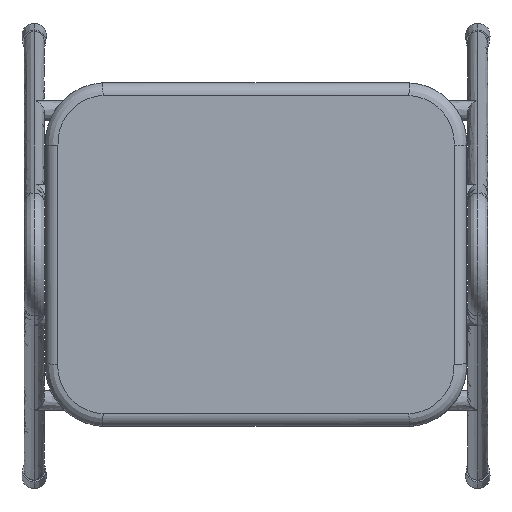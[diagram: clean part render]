
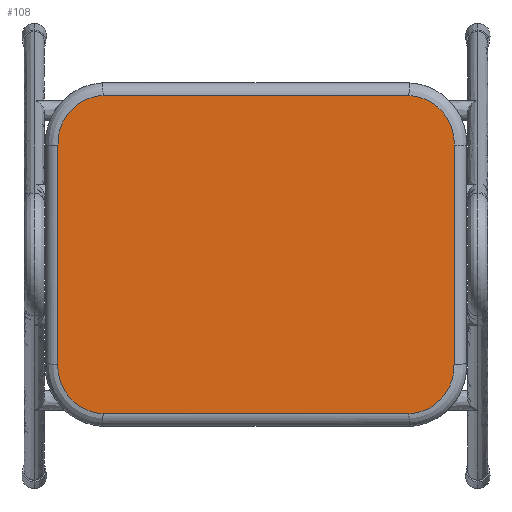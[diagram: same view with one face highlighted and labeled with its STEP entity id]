
A CAD part, top view. The second image highlights one B-rep face of the part: STEP entity #108.
In plain terms, the highlighted planar face has unit normal (0, 0, 1).
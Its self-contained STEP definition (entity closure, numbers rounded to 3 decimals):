
#108=ADVANCED_FACE('',(#216),#1754,.T.);
#216=FACE_OUTER_BOUND('',#332,.T.);
#332=EDGE_LOOP('',(#842,#843,#844,#845,#846,#847,#848,#849));
#842=ORIENTED_EDGE('',*,*,#1222,.F.);
#843=ORIENTED_EDGE('',*,*,#1219,.F.);
#844=ORIENTED_EDGE('',*,*,#1217,.F.);
#845=ORIENTED_EDGE('',*,*,#1214,.F.);
#846=ORIENTED_EDGE('',*,*,#1212,.F.);
#847=ORIENTED_EDGE('',*,*,#1209,.F.);
#848=ORIENTED_EDGE('',*,*,#1227,.F.);
#849=ORIENTED_EDGE('',*,*,#1224,.F.);
#1209=EDGE_CURVE('',#1716,#1717,#1427,.T.);
#1212=EDGE_CURVE('',#1717,#1713,#1428,.T.);
#1214=EDGE_CURVE('',#1713,#1714,#1430,.T.);
#1217=EDGE_CURVE('',#1714,#1715,#1431,.T.);
#1219=EDGE_CURVE('',#1715,#1712,#1433,.T.);
#1222=EDGE_CURVE('',#1712,#1710,#1434,.T.);
#1224=EDGE_CURVE('',#1710,#1711,#1436,.T.);
#1227=EDGE_CURVE('',#1711,#1716,#1437,.T.);
#1427=(
BOUNDED_CURVE()
B_SPLINE_CURVE(1,(#8528,#8529),.UNSPECIFIED.,.F.,.F.)
B_SPLINE_CURVE_WITH_KNOTS((2,2),(0.276,290.548),
 .UNSPECIFIED.)
CURVE()
GEOMETRIC_REPRESENTATION_ITEM()
RATIONAL_B_SPLINE_CURVE((1.,1.))
REPRESENTATION_ITEM('')
);
#1428=(
BOUNDED_CURVE()
B_SPLINE_CURVE(2,(#8566,#8567,#8568),.UNSPECIFIED.,.F.,.F.)
B_SPLINE_CURVE_WITH_KNOTS((3,3),(0.246,70.833),
 .UNSPECIFIED.)
CURVE()
GEOMETRIC_REPRESENTATION_ITEM()
RATIONAL_B_SPLINE_CURVE((1.,0.708,1.))
REPRESENTATION_ITEM('')
);
#1430=(
BOUNDED_CURVE()
B_SPLINE_CURVE(1,(#8571,#8572),.UNSPECIFIED.,.F.,.F.)
B_SPLINE_CURVE_WITH_KNOTS((2,2),(-0.253,207.707),
 .UNSPECIFIED.)
CURVE()
GEOMETRIC_REPRESENTATION_ITEM()
RATIONAL_B_SPLINE_CURVE((1.,1.))
REPRESENTATION_ITEM('')
);
#1431=(
BOUNDED_CURVE()
B_SPLINE_CURVE(2,(#8609,#8610,#8611),.UNSPECIFIED.,.F.,.F.)
B_SPLINE_CURVE_WITH_KNOTS((3,3),(-0.226,70.362),
 .UNSPECIFIED.)
CURVE()
GEOMETRIC_REPRESENTATION_ITEM()
RATIONAL_B_SPLINE_CURVE((1.,0.708,1.))
REPRESENTATION_ITEM('')
);
#1433=(
BOUNDED_CURVE()
B_SPLINE_CURVE(1,(#8614,#8615),.UNSPECIFIED.,.F.,.F.)
B_SPLINE_CURVE_WITH_KNOTS((2,2),(0.276,290.548),
 .UNSPECIFIED.)
CURVE()
GEOMETRIC_REPRESENTATION_ITEM()
RATIONAL_B_SPLINE_CURVE((1.,1.))
REPRESENTATION_ITEM('')
);
#1434=(
BOUNDED_CURVE()
B_SPLINE_CURVE(2,(#8652,#8653,#8654),.UNSPECIFIED.,.F.,.F.)
B_SPLINE_CURVE_WITH_KNOTS((3,3),(0.246,70.833),
 .UNSPECIFIED.)
CURVE()
GEOMETRIC_REPRESENTATION_ITEM()
RATIONAL_B_SPLINE_CURVE((1.,0.708,1.))
REPRESENTATION_ITEM('')
);
#1436=(
BOUNDED_CURVE()
B_SPLINE_CURVE(1,(#8657,#8658),.UNSPECIFIED.,.F.,.F.)
B_SPLINE_CURVE_WITH_KNOTS((2,2),(-0.253,207.707),
 .UNSPECIFIED.)
CURVE()
GEOMETRIC_REPRESENTATION_ITEM()
RATIONAL_B_SPLINE_CURVE((1.,1.))
REPRESENTATION_ITEM('')
);
#1437=(
BOUNDED_CURVE()
B_SPLINE_CURVE(2,(#8695,#8696,#8697),.UNSPECIFIED.,.F.,.F.)
B_SPLINE_CURVE_WITH_KNOTS((3,3),(-0.226,70.362),
 .UNSPECIFIED.)
CURVE()
GEOMETRIC_REPRESENTATION_ITEM()
RATIONAL_B_SPLINE_CURVE((1.,0.708,1.))
REPRESENTATION_ITEM('')
);
#1710=VERTEX_POINT('',#8474);
#1711=VERTEX_POINT('',#8475);
#1712=VERTEX_POINT('',#8476);
#1713=VERTEX_POINT('',#8477);
#1714=VERTEX_POINT('',#8478);
#1715=VERTEX_POINT('',#8479);
#1716=VERTEX_POINT('',#8480);
#1717=VERTEX_POINT('',#8481);
#1754=PLANE('',#1878);
#1878=AXIS2_PLACEMENT_3D('',#8248,#1903,$);
#1903=DIRECTION('',(0.,0.,1.));
#8248=CARTESIAN_POINT('',(-249.982,203.75,765.));
#8474=CARTESIAN_POINT('',(-187.94,-103.98,765.));
#8475=CARTESIAN_POINT('',(-187.94,103.98,765.));
#8476=CARTESIAN_POINT('',(-145.136,-151.,765.));
#8477=CARTESIAN_POINT('',(187.941,103.98,765.));
#8478=CARTESIAN_POINT('',(187.941,-103.98,765.));
#8479=CARTESIAN_POINT('',(145.136,-151.,765.));
#8480=CARTESIAN_POINT('',(-145.135,151.,765.));
#8481=CARTESIAN_POINT('',(145.137,151.,765.));
#8528=CARTESIAN_POINT('',(-145.135,151.,765.));
#8529=CARTESIAN_POINT('',(145.137,151.,765.));
#8566=CARTESIAN_POINT('',(145.137,151.,765.));
#8567=CARTESIAN_POINT('',(189.957,148.808,765.));
#8568=CARTESIAN_POINT('',(187.941,103.98,765.));
#8571=CARTESIAN_POINT('',(187.941,103.98,765.));
#8572=CARTESIAN_POINT('',(187.941,-103.98,765.));
#8609=CARTESIAN_POINT('',(187.941,-103.98,765.));
#8610=CARTESIAN_POINT('',(189.957,-148.809,765.));
#8611=CARTESIAN_POINT('',(145.136,-151.,765.));
#8614=CARTESIAN_POINT('',(145.136,-151.,765.));
#8615=CARTESIAN_POINT('',(-145.136,-151.,765.));
#8652=CARTESIAN_POINT('',(-145.136,-151.,765.));
#8653=CARTESIAN_POINT('',(-189.956,-148.808,765.));
#8654=CARTESIAN_POINT('',(-187.94,-103.98,765.));
#8657=CARTESIAN_POINT('',(-187.94,-103.98,765.));
#8658=CARTESIAN_POINT('',(-187.94,103.98,765.));
#8695=CARTESIAN_POINT('',(-187.94,103.98,765.));
#8696=CARTESIAN_POINT('',(-189.956,148.809,765.));
#8697=CARTESIAN_POINT('',(-145.135,151.,765.));
